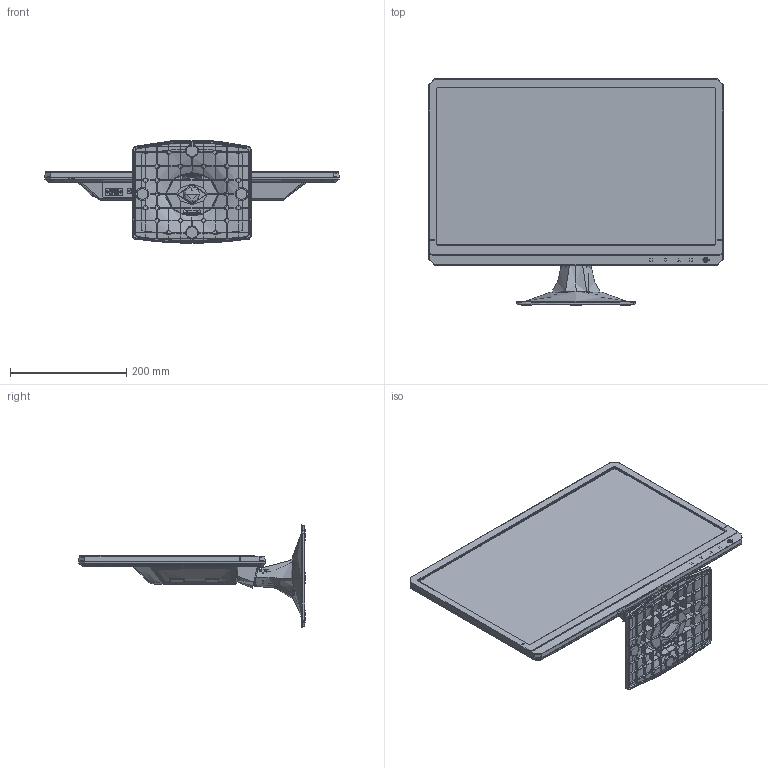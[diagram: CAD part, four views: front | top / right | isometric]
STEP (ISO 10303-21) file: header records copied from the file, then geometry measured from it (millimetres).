
FILE_DESCRIPTION (( 'STEP AP214' ), '1' );
FILE_NAME ('997-6897-00_stp.STEP', '2015-05-01T18:00:10', ( 'IT Admin' ), ( 'Planar Systems, iNC.' ), 'SwSTEP 2.0', 'SolidWorks 2014', '' );
FILE_SCHEMA (( 'AUTOMOTIVE_DESIGN' ));
Length unit declared in the file: millimetre
Products named in the file (34): JL188-V-STAND; MANIFOLD_SOLID_BREP_159516; JL188--NEW-NECK; MANIFOLD_SOLID_BREP_159218; L17-HINGE-ASM_ASM; MANIFOLD_SOLID_BREP_158552; CX-IS0008-1_2; 2022220117P-XX; MANIFOLD_SOLID_BREP_861_1; JL220AD-FRONT_BEZEL-ASM_ASM; MANIFOLD_SOLID_BREP_863_1; JL240AD-LED-LENS; CX-4W0021-1_1; JL220AD-FRONT_BEZEL; HINGE_A_4; HINGE_B_5-L17; 997-6897-00_stp; 2071660308P_ASM; ZD3; JL220-SMALL_METAL; MOUNT_4; ZD1; PLL2210W_D-SUB-VGA-PORT; 2106660308P; PLL2210W_DVI_25P; B4_215ADS_FORWARD_3D_CUSTOMER_0_ASM; PLL2210W_6010_1; B4_215ADS_FORWARD_3D_0821_1_ASM; JL188-NEW-HINGE_COVER; MANIFOLD_SOLID_BREP_160330; L17-STAND_ASM; MANIFOLD_SOLID_BREP_160072; FOOTPAD; MANIFOLD_SOLID_BREP_159814
Assembly tree (50 placements, depth 4):
  997-6897-00_stp
    JL220AD-FRONT_BEZEL-ASM_ASM
      JL220AD-FRONT_BEZEL
      JL240AD-LED-LENS
    2022220117P-XX
    B4_215ADS_FORWARD_3D_CUSTOMER_0_ASM
      B4_215ADS_FORWARD_3D_0821_1_ASM
        MANIFOLD_SOLID_BREP_158552
        MANIFOLD_SOLID_BREP_159218
        MANIFOLD_SOLID_BREP_159516
        MANIFOLD_SOLID_BREP_159814
        MANIFOLD_SOLID_BREP_160072
        MANIFOLD_SOLID_BREP_160330
    2071660308P_ASM
      2106660308P
      ZD1  x2
      MOUNT_4  x4
      JL220-SMALL_METAL
      ZD3
    L17-STAND_ASM
      L17-HINGE-ASM_ASM
        HINGE_B_5-L17
        HINGE_A_4
        CX-4W0021-1_1  x6
        MANIFOLD_SOLID_BREP_863_1  x4
        MANIFOLD_SOLID_BREP_861_1  x2
        CX-IS0008-1_2  x2
      JL188--NEW-NECK
      JL188-V-STAND
      FOOTPAD  x4
    JL188-NEW-HINGE_COVER
    PLL2210W_6010_1
    PLL2210W_DVI_25P
    PLL2210W_D-SUB-VGA-PORT
Bounding box: 506.59 x 390.02 x 176.53 mm (x, y, z)
Topology: 44 solids, 75 shells, 11467 faces, 31569 edges, 20429 vertices
Faces by surface type: plane 7139, cylinder 2965, bspline 1049, cone 310, torus 4
Entity records: 493555 total; most frequent: CARTESIAN_POINT 224864, ORIENTED_EDGE 61158, DIRECTION 46115, EDGE_CURVE 30700, VERTEX_POINT 19937, LINE 18789, VECTOR 18789, AXIS2_PLACEMENT_3D 13663
